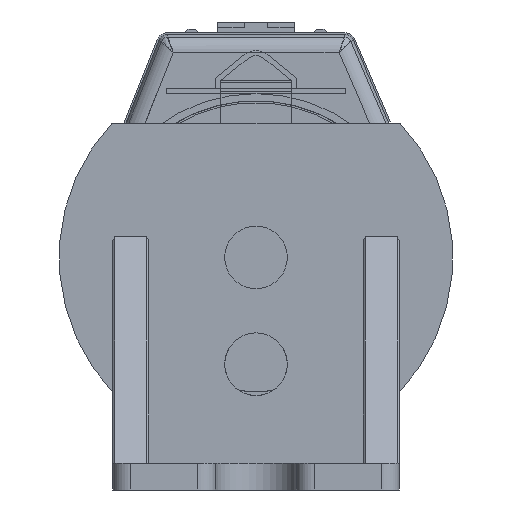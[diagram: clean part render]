
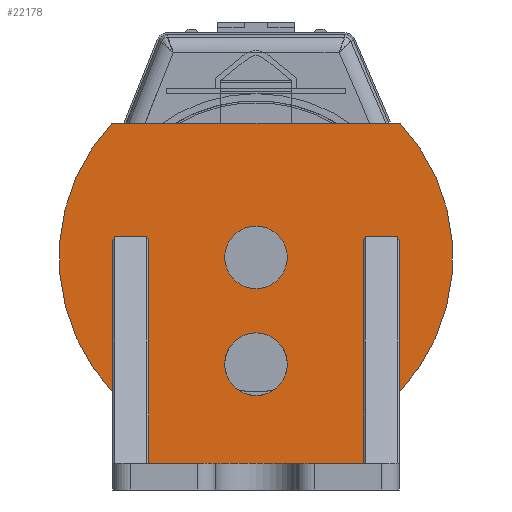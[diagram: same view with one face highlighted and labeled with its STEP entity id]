
A CAD part, left-side view. The second image highlights one B-rep face of the part: STEP entity #22178.
In plain terms, the highlighted planar face has unit normal (-1, 0, 0).
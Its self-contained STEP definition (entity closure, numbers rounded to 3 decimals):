
#6933=CARTESIAN_POINT('',(3.9,-7.05,13.944));
#6934=CARTESIAN_POINT('',(3.9,-7.05,14.044));
#6935=CARTESIAN_POINT('',(3.9,-7.05,14.144));
#6936=CARTESIAN_POINT('',(3.9,-6.95,14.144));
#6938=DIRECTION('',(0.,1.,0.));
#6939=VECTOR('',#6938,1.8);
#6940=CARTESIAN_POINT('',(3.9,-6.95,14.144));
#6941=LINE('',#6940,#6939);
#6942=DIRECTION('',(0.,0.,-1.));
#6943=VECTOR('',#6942,12.444);
#6944=CARTESIAN_POINT('',(3.9,-5.05,13.944));
#6945=LINE('',#6944,#6943);
#6946=DIRECTION('',(0.,1.,0.));
#6947=VECTOR('',#6946,12.);
#6948=CARTESIAN_POINT('',(3.9,-5.05,1.5));
#6949=LINE('',#6948,#6947);
#6950=DIRECTION('',(0.,0.,1.));
#6951=VECTOR('',#6950,12.444);
#6952=CARTESIAN_POINT('',(3.9,6.95,1.5));
#6953=LINE('',#6952,#6951);
#6954=DIRECTION('',(0.,1.,0.));
#6955=VECTOR('',#6954,1.8);
#6956=CARTESIAN_POINT('',(3.9,7.05,14.144));
#6957=LINE('',#6956,#6955);
#6958=CARTESIAN_POINT('',(3.9,0.95,13.));
#6959=DIRECTION('',(1.,0.,0.));
#6960=DIRECTION('',(0.,0.727,-0.686));
#6961=AXIS2_PLACEMENT_3D('',#6958,#6959,#6960);
#6963=DIRECTION('',(0.,-1.,0.));
#6964=VECTOR('',#6963,16.093);
#6965=CARTESIAN_POINT('',(3.9,8.997,20.5));
#6966=LINE('',#6965,#6964);
#6967=CARTESIAN_POINT('',(3.9,0.95,13.));
#6968=DIRECTION('',(1.,0.,0.));
#6969=DIRECTION('',(0.,-0.732,0.682));
#6970=AXIS2_PLACEMENT_3D('',#6967,#6968,#6969);
#6972=CARTESIAN_POINT('',(3.9,0.95,7.03));
#6973=DIRECTION('',(-1.,0.,0.));
#6974=DIRECTION('',(0.,0.,1.));
#6975=AXIS2_PLACEMENT_3D('',#6972,#6973,#6974);
#6977=CARTESIAN_POINT('',(3.9,0.95,7.03));
#6978=DIRECTION('',(-1.,0.,0.));
#6979=DIRECTION('',(0.,0.,-1.));
#6980=AXIS2_PLACEMENT_3D('',#6977,#6978,#6979);
#6982=CARTESIAN_POINT('',(3.9,0.95,13.));
#6983=DIRECTION('',(-1.,0.,0.));
#6984=DIRECTION('',(0.,0.,1.));
#6985=AXIS2_PLACEMENT_3D('',#6982,#6983,#6984);
#6987=CARTESIAN_POINT('',(3.9,0.95,13.));
#6988=DIRECTION('',(-1.,0.,0.));
#6989=DIRECTION('',(0.,0.,-1.));
#6990=AXIS2_PLACEMENT_3D('',#6987,#6988,#6989);
#7061=DIRECTION('',(0.,0.,-1.));
#7062=VECTOR('',#7061,8.494);
#7063=CARTESIAN_POINT('',(3.9,-7.05,13.944));
#7064=LINE('',#7063,#7062);
#8409=DIRECTION('',(0.,0.,1.));
#8410=VECTOR('',#8409,8.494);
#8411=CARTESIAN_POINT('',(3.9,8.95,5.45));
#8412=LINE('',#8411,#8410);
#8413=CARTESIAN_POINT('',(3.9,8.95,13.944));
#8414=CARTESIAN_POINT('',(3.9,8.95,14.044));
#8415=CARTESIAN_POINT('',(3.9,8.95,14.144));
#8416=CARTESIAN_POINT('',(3.9,8.85,14.144));
#8426=CARTESIAN_POINT('',(3.9,7.05,14.144));
#8427=CARTESIAN_POINT('',(3.9,6.95,14.144));
#8428=CARTESIAN_POINT('',(3.9,6.95,14.044));
#8429=CARTESIAN_POINT('',(3.9,6.95,13.944));
#8602=CARTESIAN_POINT('',(3.9,-5.05,13.944));
#8603=CARTESIAN_POINT('',(3.9,-5.05,14.044));
#8604=CARTESIAN_POINT('',(3.9,-5.05,14.144));
#8605=CARTESIAN_POINT('',(3.9,-5.15,14.144));
#10333=CARTESIAN_POINT('',(3.9,0.95,8.78));
#10335=VERTEX_POINT('',#10333);
#10336=CARTESIAN_POINT('',(3.9,0.95,5.28));
#10337=VERTEX_POINT('',#10336);
#10404=CARTESIAN_POINT('',(3.9,-7.097,20.5));
#10405=VERTEX_POINT('',#10404);
#10406=CARTESIAN_POINT('',(3.9,8.997,20.5));
#10407=VERTEX_POINT('',#10406);
#10408=CARTESIAN_POINT('',(3.9,-7.05,5.45));
#10409=VERTEX_POINT('',#10408);
#10411=CARTESIAN_POINT('',(3.9,-7.05,13.944));
#10413=VERTEX_POINT('',#10411);
#10419=CARTESIAN_POINT('',(3.9,-6.95,14.144));
#10420=VERTEX_POINT('',#10419);
#10445=CARTESIAN_POINT('',(3.9,6.95,1.5));
#10446=VERTEX_POINT('',#10445);
#10447=CARTESIAN_POINT('',(3.9,-5.05,1.5));
#10448=VERTEX_POINT('',#10447);
#10470=CARTESIAN_POINT('',(3.9,8.95,13.944));
#10471=VERTEX_POINT('',#10470);
#10472=CARTESIAN_POINT('',(3.9,8.95,5.45));
#10473=VERTEX_POINT('',#10472);
#10474=VERTEX_POINT('',#8416);
#10475=CARTESIAN_POINT('',(3.9,-5.15,14.144));
#10476=VERTEX_POINT('',#10475);
#10477=VERTEX_POINT('',#8602);
#10478=CARTESIAN_POINT('',(3.9,6.95,13.944));
#10479=VERTEX_POINT('',#10478);
#10480=VERTEX_POINT('',#8426);
#10481=CARTESIAN_POINT('',(3.9,0.95,14.75));
#10482=CARTESIAN_POINT('',(3.9,0.95,11.25));
#10483=VERTEX_POINT('',#10481);
#10484=VERTEX_POINT('',#10482);
#22133=CARTESIAN_POINT('',(3.9,0.95,13.));
#22134=DIRECTION('',(1.,0.,0.));
#22135=DIRECTION('',(0.,0.,-1.));
#22136=AXIS2_PLACEMENT_3D('',#22133,#22134,#22135);
#22137=PLANE('',#22136);
#22139=ORIENTED_EDGE('',*,*,#22138,.T.);
#22141=ORIENTED_EDGE('',*,*,#22140,.T.);
#22143=ORIENTED_EDGE('',*,*,#22142,.F.);
#22145=ORIENTED_EDGE('',*,*,#22144,.T.);
#22147=ORIENTED_EDGE('',*,*,#22146,.T.);
#22149=ORIENTED_EDGE('',*,*,#22148,.T.);
#22151=ORIENTED_EDGE('',*,*,#22150,.F.);
#22153=ORIENTED_EDGE('',*,*,#22152,.T.);
#22155=ORIENTED_EDGE('',*,*,#22154,.F.);
#22157=ORIENTED_EDGE('',*,*,#22156,.F.);
#22159=ORIENTED_EDGE('',*,*,#22158,.T.);
#22161=ORIENTED_EDGE('',*,*,#22160,.T.);
#22163=ORIENTED_EDGE('',*,*,#22162,.T.);
#22165=ORIENTED_EDGE('',*,*,#22164,.F.);
#22166=EDGE_LOOP('',(#22139,#22141,#22143,#22145,#22147,#22149,#22151,#22153,
#22155,#22157,#22159,#22161,#22163,#22165));
#22167=FACE_OUTER_BOUND('',#22166,.F.);
#22169=ORIENTED_EDGE('',*,*,#22168,.T.);
#22171=ORIENTED_EDGE('',*,*,#22170,.T.);
#22172=EDGE_LOOP('',(#22169,#22171));
#22173=FACE_BOUND('',#22172,.F.);
#22174=ORIENTED_EDGE('',*,*,#22098,.T.);
#22175=ORIENTED_EDGE('',*,*,#22120,.T.);
#22176=EDGE_LOOP('',(#22174,#22175));
#22177=FACE_BOUND('',#22176,.F.);
#6937=B_SPLINE_CURVE_WITH_KNOTS('',3,(#6933,#6934,#6935,#6936),.UNSPECIFIED.,
.F.,.F.,(4,4),(0.,1.),.UNSPECIFIED.);
#6962=CIRCLE('',#6961,11.);
#6971=CIRCLE('',#6970,11.);
#6976=CIRCLE('',#6975,1.75);
#6981=CIRCLE('',#6980,1.75);
#6986=CIRCLE('',#6985,1.75);
#6991=CIRCLE('',#6990,1.75);
#8417=B_SPLINE_CURVE_WITH_KNOTS('',3,(#8413,#8414,#8415,#8416),.UNSPECIFIED.,
.F.,.F.,(4,4),(0.,1.),.UNSPECIFIED.);
#8430=B_SPLINE_CURVE_WITH_KNOTS('',3,(#8426,#8427,#8428,#8429),.UNSPECIFIED.,
.F.,.F.,(4,4),(0.,1.),.UNSPECIFIED.);
#8606=B_SPLINE_CURVE_WITH_KNOTS('',3,(#8602,#8603,#8604,#8605),.UNSPECIFIED.,
.F.,.F.,(4,4),(0.,1.),.UNSPECIFIED.);
#22098=EDGE_CURVE('',#10483,#10484,#6986,.T.);
#22120=EDGE_CURVE('',#10484,#10483,#6991,.T.);
#22138=EDGE_CURVE('',#10413,#10420,#6937,.T.);
#22140=EDGE_CURVE('',#10420,#10476,#6941,.T.);
#22142=EDGE_CURVE('',#10477,#10476,#8606,.T.);
#22144=EDGE_CURVE('',#10477,#10448,#6945,.T.);
#22146=EDGE_CURVE('',#10448,#10446,#6949,.T.);
#22148=EDGE_CURVE('',#10446,#10479,#6953,.T.);
#22150=EDGE_CURVE('',#10480,#10479,#8430,.T.);
#22152=EDGE_CURVE('',#10480,#10474,#6957,.T.);
#22154=EDGE_CURVE('',#10471,#10474,#8417,.T.);
#22156=EDGE_CURVE('',#10473,#10471,#8412,.T.);
#22158=EDGE_CURVE('',#10473,#10407,#6962,.T.);
#22160=EDGE_CURVE('',#10407,#10405,#6966,.T.);
#22162=EDGE_CURVE('',#10405,#10409,#6971,.T.);
#22164=EDGE_CURVE('',#10413,#10409,#7064,.T.);
#22168=EDGE_CURVE('',#10335,#10337,#6976,.T.);
#22170=EDGE_CURVE('',#10337,#10335,#6981,.T.);
#22178=ADVANCED_FACE('',(#22167,#22173,#22177),#22137,.F.);
